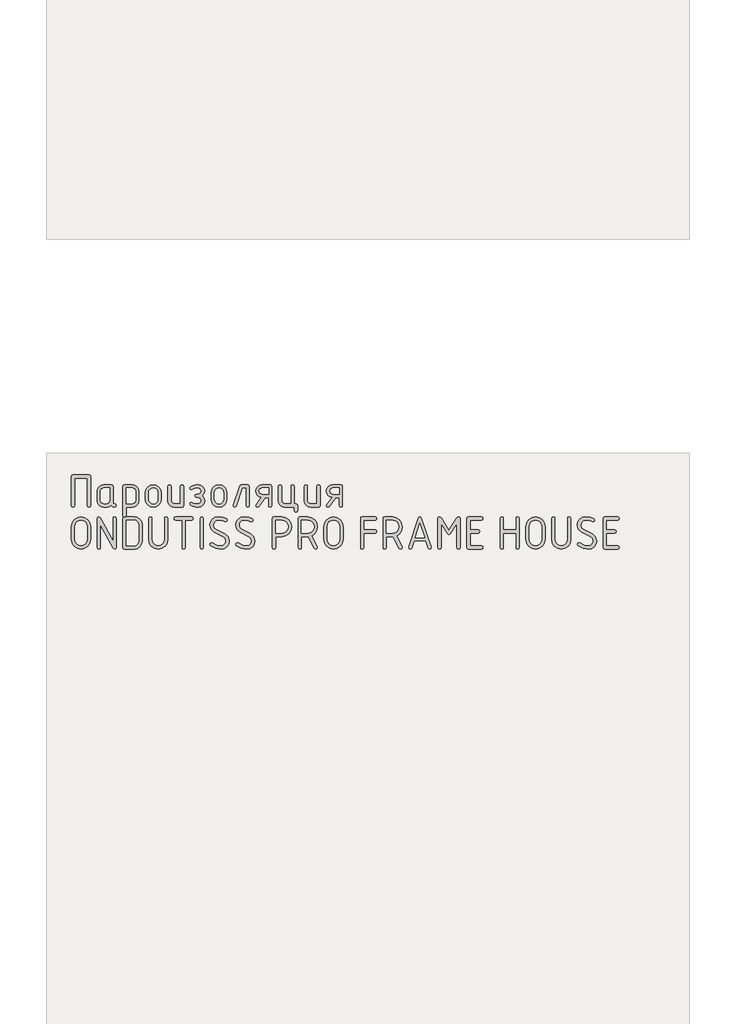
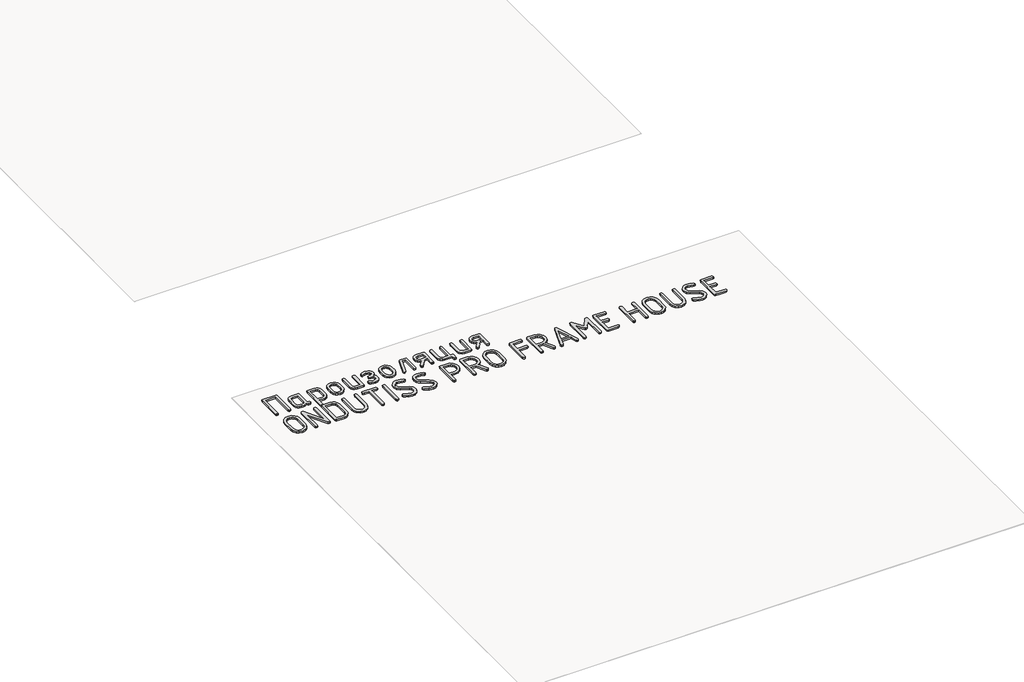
# One storey, part 14 of 42: 1 proxy.
"""IFC4 building model written with IfcOpenShell, lengths in millimetres."""

from ifc_helpers import new_model, si_unit, origin, origin_with_axes, place, context, project, spatial, polyline, outline, extrude, element, save

model = new_model("IFC4")

# Units and contexts
model_context = context("Model", 3, world=origin())
ifc_project = project(units=[si_unit("LENGTHUNIT", "METRE", prefix="MILLI")], contexts=[model_context])

# Site, building, storey
site = spatial("IfcSite", under=ifc_project)
building = spatial("IfcBuilding", under=site)
storey = spatial("IfcBuildingStorey", under=building, Name="Этаж 01", Elevation=0.0)

# Proxy
placement = place(None, origin())
element("IfcBuildingElementProxy", 1, Name="150 мм GOST Common", ObjectType="150 мм GOST Common", at=placement, inside=storey, context=model_context, shape_type="SweptSolid", body=[
    extrude(outline(polyline([(-10713.0545046, -38675.913887), (-10638.5048151, -38675.913887), (-10632.9016029, -38677.8016002), (-10631.0338655, -38683.4647398), (-10631.0338655, -38819.2202837), (-10632.9515424, -38824.8834233), (-10638.7045731, -38826.7711365), (-10644.4576038, -38824.8934112), (-10646.3752807, -38819.2602353), (-10646.3752807, -38691.2553022), (-10705.184039, -38691.2553022), (-10705.184039, -38819.2602353), (-10707.1017159, -38824.8934112), (-10712.8547466, -38826.7711365), (-10718.6077773, -38824.8834233), (-10720.5254542, -38819.2202837), (-10720.5254542, -38683.4647398), (-10718.6577168, -38677.8016002), (-10713.0545046, -38675.913887)])), origin_with_axes(), (0.0, 0.0, 1.0), 10.0),
    extrude(outline(polyline([(-10511.2190109, -38819.3001869), (-10513.0867483, -38824.9033991), (-10518.6899605, -38826.7711365), (-10528.1684781, -38824.7835443), (-10535.7492945, -38818.8207677), (-10544.8682477, -38824.7835443), (-10555.8449504, -38826.7711365), (-10570.7069464, -38826.7711365), (-10582.2030199, -38824.6037621), (-10591.7614407, -38818.1016388), (-10598.2036365, -38808.443339), (-10600.3510351, -38796.8074349), (-10600.3510351, -38751.9018342), (-10598.2036365, -38740.2659301), (-10591.7614407, -38730.6076303), (-10582.2030199, -38724.105507), (-10570.7069464, -38721.9381326), (-10533.6318596, -38721.9381326), (-10528.0586111, -38723.80587), (-10526.2008617, -38729.4090822), (-10526.2008617, -38804.3183361), (-10524.3281303, -38809.9215483), (-10518.7099363, -38811.7892857), (-10513.0917422, -38813.667011), (-10511.2190109, -38819.3001869)]), holes=[polyline([(-10541.5422768, -38737.2795478), (-10570.5071884, -38737.2795478), (-10580.7747501, -38741.6142966), (-10585.0096199, -38752.1015922), (-10585.0096199, -38796.6076769), (-10580.7347985, -38807.0550209), (-10570.5071884, -38811.4297213), (-10556.0447084, -38811.4297213), (-10545.7771467, -38807.0949725), (-10541.5422768, -38796.6076769), (-10541.5422768, -38737.2795478)])]), origin_with_axes(), (0.0, 0.0, 1.0), 10.0),
    extrude(outline(polyline([(-10480.1766161, -38729.4889854), (-10478.3188666, -38723.8258458), (-10472.7456181, -38721.9381326), (-10435.6705313, -38721.9381326), (-10424.1744578, -38724.105507), (-10414.6160371, -38730.6076303), (-10408.1738412, -38740.2659301), (-10406.0264426, -38751.9018342), (-10406.0264426, -38796.8074349), (-10408.1588594, -38808.3684298), (-10414.5561096, -38818.0417114), (-10424.0396212, -38824.5887802), (-10435.4308217, -38826.7711365), (-10464.8352009, -38826.7711365), (-10464.8352009, -38865.1246745), (-10466.7528778, -38870.8777052), (-10472.5059085, -38872.7953821), (-10478.2589392, -38870.9076689), (-10480.1766161, -38865.2445293), (-10480.1766161, -38729.4889854)]), holes=[polyline([(-10464.8352009, -38737.2795478), (-10464.8352009, -38811.4297213), (-10435.8702894, -38811.4297213), (-10425.6027276, -38807.0949725), (-10421.3678578, -38796.6076769), (-10421.3678578, -38752.1015922), (-10425.5428002, -38741.5543692), (-10435.8702894, -38737.2795478), (-10464.8352009, -38737.2795478)])]), origin_with_axes(), (0.0, 0.0, 1.0), 10.0),
    extrude(outline(polyline([(-10375.3436122, -38789.3364853), (-10375.3436122, -38759.3727838), (-10372.6318972, -38744.9802191), (-10364.4967522, -38732.8848716), (-10352.5162656, -38724.6748174), (-10338.2685255, -38721.9381326), (-10323.8709669, -38724.6448537), (-10311.9204439, -38732.7650168), (-10303.87519, -38744.8304006), (-10301.1934388, -38759.3727838), (-10301.1934388, -38789.3364853), (-10303.9051537, -38803.72905), (-10312.0402987, -38815.8243975), (-10324.0207854, -38824.0344517), (-10338.2685255, -38826.7711365), (-10352.5162656, -38824.0344517), (-10364.4967522, -38815.8243975), (-10372.6318972, -38803.72905), (-10375.3436122, -38789.3364853)]), holes=[polyline([(-10316.534854, -38788.8970177), (-10316.534854, -38758.8933645), (-10318.1279241, -38750.2638185), (-10322.9071345, -38742.9926269), (-10329.9336225, -38738.0486162), (-10338.2685255, -38736.4006126), (-10346.6034285, -38738.0486162), (-10353.6299165, -38742.9926269), (-10358.4091269, -38750.2638185), (-10360.002197, -38758.8933645), (-10360.002197, -38788.8970177), (-10358.4241087, -38797.606467), (-10353.6898439, -38804.8776585), (-10346.6783377, -38809.7917056), (-10338.2685255, -38811.4297213), (-10329.9336225, -38809.7817177), (-10322.9071345, -38804.8377069), (-10318.1279241, -38797.5565275), (-10316.534854, -38788.8970177)])]), origin_with_axes(), (0.0, 0.0, 1.0), 10.0),
    extrude(outline(polyline([(-10196.3604349, -38729.4090822), (-10196.3604349, -38819.3001869), (-10198.2181844, -38824.9033991), (-10203.7914329, -38826.7711365), (-10240.8665196, -38826.7711365), (-10252.3625931, -38824.6037621), (-10261.9210139, -38818.1016388), (-10268.3632097, -38808.443339), (-10270.5106084, -38796.8074349), (-10270.5106084, -38729.4090822), (-10268.5929315, -38723.80587), (-10262.8399008, -38721.9381326), (-10257.0868701, -38723.80587), (-10255.1691932, -38729.4090822), (-10255.1691932, -38796.5277737), (-10250.8943717, -38807.0150692), (-10240.6667616, -38811.4297213), (-10211.7018501, -38811.4297213), (-10211.7018501, -38729.4090822), (-10209.7841732, -38723.80587), (-10204.0311425, -38721.9381326), (-10198.2781118, -38723.80587), (-10196.3604349, -38729.4090822)])), origin_with_axes(), (0.0, 0.0, 1.0), 10.0),
    extrude(outline(polyline([(-10114.5395539, -38796.0483545), (-10118.5347141, -38784.7020995), (-10127.4039697, -38780.7468909), (-10137.0722574, -38780.7468909), (-10142.3858205, -38778.5495528), (-10144.543207, -38773.1161349), (-10142.3258931, -38767.6627412), (-10134.9148709, -38765.4054757), (-10132.6376296, -38765.4054757), (-10130.2405335, -38765.4054757), (-10118.5746657, -38761.3503881), (-10114.5395539, -38751.3425118), (-10118.8743027, -38741.3346354), (-10129.5613562, -38737.2795478), (-10137.0722574, -38737.2795478), (-10152.4536242, -38741.0949258), (-10161.3628315, -38744.9103038), (-10165.3579917, -38742.1736191), (-10167.0759106, -38736.9199834), (-10163.9996372, -38731.1769406), (-10154.7708171, -38726.013196), (-10137.0722574, -38721.9381326), (-10129.5613562, -38721.9381326), (-10117.8755126, -38724.0555675), (-10108.0673943, -38730.4078723), (-10101.4154526, -38739.8264625), (-10099.1981387, -38751.1427537), (-10101.8449323, -38764.4366493), (-10109.7853132, -38773.0761833), (-10101.8449323, -38782.2650518), (-10099.1981387, -38796.0883061), (-10101.4154526, -38807.9888895), (-10108.0673943, -38817.881905), (-10117.8755126, -38824.5488286), (-10129.5613562, -38826.7711365), (-10137.0722574, -38826.7711365), (-10154.8906719, -38822.8159279), (-10164.0296009, -38817.7420744), (-10167.0759106, -38811.7892857), (-10165.3579917, -38806.5156742), (-10161.2429767, -38803.7989653), (-10152.1140356, -38807.6143433), (-10137.0722574, -38811.4297213), (-10129.5613562, -38811.4297213), (-10118.9142543, -38806.935166), (-10114.5395539, -38796.0483545)])), origin_with_axes(), (0.0, 0.0, 1.0), 10.0),
    extrude(outline(polyline([(-10068.5153083, -38789.3364853), (-10068.5153083, -38759.3727838), (-10065.8035933, -38744.9802191), (-10057.6684483, -38732.8848716), (-10045.6879616, -38724.6748174), (-10031.4402215, -38721.9381326), (-10017.0426629, -38724.6448537), (-10005.09214, -38732.7650168), (-9997.0468861, -38744.8304006), (-9994.3651348, -38759.3727838), (-9994.3651348, -38789.3364853), (-9997.0768498, -38803.72905), (-10005.2119948, -38815.8243975), (-10017.1924814, -38824.0344517), (-10031.4402215, -38826.7711365), (-10045.6879616, -38824.0344517), (-10057.6684483, -38815.8243975), (-10065.8035933, -38803.72905), (-10068.5153083, -38789.3364853)]), holes=[polyline([(-10009.70655, -38788.8970177), (-10009.70655, -38758.8933645), (-10011.2996201, -38750.2638185), (-10016.0788305, -38742.9926269), (-10023.1053185, -38738.0486162), (-10031.4402215, -38736.4006126), (-10039.7751245, -38738.0486162), (-10046.8016125, -38742.9926269), (-10051.5808229, -38750.2638185), (-10053.1738931, -38758.8933645), (-10053.1738931, -38788.8970177), (-10051.5958048, -38797.606467), (-10046.8615399, -38804.8776585), (-10039.8500338, -38809.7917056), (-10031.4402215, -38811.4297213), (-10023.1053185, -38809.7817177), (-10016.0788305, -38804.8377069), (-10011.2996201, -38797.5565275), (-10009.70655, -38788.8970177)])]), origin_with_axes(), (0.0, 0.0, 1.0), 10.0),
    extrude(outline(polyline([(-9927.3662981, -38721.9381326), (-9897.2028386, -38721.9381326), (-9891.4498079, -38723.80587), (-9889.532131, -38729.4090822), (-9889.532131, -38819.3001869), (-9891.4498079, -38824.9033991), (-9897.2028386, -38826.7711365), (-9902.9558693, -38824.9033991), (-9904.8735462, -38819.3001869), (-9904.8735462, -38737.2795478), (-9922.0127834, -38737.2795478), (-9950.2985177, -38821.697283), (-9957.3699513, -38826.7711365), (-9963.0031272, -38824.8734354), (-9964.8808525, -38819.1803321), (-9964.5212881, -38816.9030908), (-9934.8771993, -38728.0507277), (-9931.9607324, -38723.4662814), (-9927.3662981, -38721.9381326)])), origin_with_axes(), (0.0, 0.0, 1.0), 10.0),
    extrude(outline(polyline([(-9833.3202268, -38781.6258261), (-9843.9024074, -38778.5046072), (-9852.47702, -38771.8576594), (-9858.1551415, -38762.663797), (-9860.0478486, -38751.9018342), (-9857.8704863, -38740.2659301), (-9851.3383994, -38730.6076303), (-9841.6601238, -38724.105507), (-9830.0441955, -38721.9381326), (-9792.3698347, -38721.9381326), (-9786.616804, -38723.80587), (-9784.6991271, -38729.4090822), (-9784.6991271, -38819.3001869), (-9786.616804, -38824.9033991), (-9792.3698347, -38826.7711365), (-9798.1228654, -38824.8934112), (-9800.0405423, -38819.2602353), (-9800.0405423, -38781.7856325), (-9815.2621027, -38781.7856325), (-9846.5042555, -38823.6948631), (-9852.5369474, -38826.7711365), (-9858.1701233, -38824.9033991), (-9860.0478486, -38819.3001869), (-9858.5696393, -38814.7457043), (-9833.3202268, -38781.6258261)]), holes=[polyline([(-9845.0260462, -38752.3013502), (-9840.5914184, -38762.8485732), (-9830.0441955, -38767.283201), (-9800.0405423, -38767.283201), (-9800.0405423, -38737.2795478), (-9830.0441955, -38737.2795478), (-9840.6513458, -38741.6542483), (-9845.0260462, -38752.3013502)])]), origin_with_axes(), (0.0, 0.0, 1.0), 10.0),
    extrude(outline(polyline([(-9672.1954157, -38811.4297213), (-9666.442385, -38813.3473982), (-9664.5247081, -38819.1004289), (-9664.5247081, -38842.1125517), (-9666.442385, -38847.8655824), (-9672.1954157, -38849.7832593), (-9677.9484464, -38847.8655824), (-9679.8661233, -38842.1125517), (-9679.8661233, -38826.7711365), (-9724.372208, -38826.7711365), (-9735.8682815, -38824.5887802), (-9745.4267023, -38818.0417114), (-9751.8688981, -38808.3684298), (-9754.0162967, -38796.8074349), (-9754.0162967, -38729.4090822), (-9752.0986198, -38723.80587), (-9746.3455891, -38721.9381326), (-9740.5925584, -38723.80587), (-9738.6748815, -38729.4090822), (-9738.6748815, -38796.5277737), (-9734.4000601, -38807.0150692), (-9724.17245, -38811.4297213), (-9695.2075385, -38811.4297213), (-9695.2075385, -38729.4090822), (-9693.2898616, -38723.80587), (-9687.5368309, -38721.9381326), (-9681.7838002, -38723.80587), (-9679.8661233, -38729.4090822), (-9679.8661233, -38811.4297213), (-9672.1954157, -38811.4297213)])), origin_with_axes(), (0.0, 0.0, 1.0), 10.0),
    extrude(outline(polyline([(-9559.6917042, -38729.4090822), (-9559.6917042, -38819.3001869), (-9561.5494537, -38824.9033991), (-9567.1227022, -38826.7711365), (-9604.1977889, -38826.7711365), (-9615.6938624, -38824.6037621), (-9625.2522832, -38818.1016388), (-9631.6944791, -38808.443339), (-9633.8418777, -38796.8074349), (-9633.8418777, -38729.4090822), (-9631.9242008, -38723.80587), (-9626.1711701, -38721.9381326), (-9620.4181394, -38723.80587), (-9618.5004625, -38729.4090822), (-9618.5004625, -38796.5277737), (-9614.225641, -38807.0150692), (-9603.9980309, -38811.4297213), (-9575.0331194, -38811.4297213), (-9575.0331194, -38729.4090822), (-9573.1154425, -38723.80587), (-9567.3624118, -38721.9381326), (-9561.6093811, -38723.80587), (-9559.6917042, -38729.4090822)])), origin_with_axes(), (0.0, 0.0, 1.0), 10.0),
    extrude(outline(polyline([(-9503.4798001, -38781.6258261), (-9514.0619807, -38778.5046072), (-9522.6365933, -38771.8576594), (-9528.3147147, -38762.663797), (-9530.2074219, -38751.9018342), (-9528.0300596, -38740.2659301), (-9521.4979726, -38730.6076303), (-9511.819697, -38724.105507), (-9500.2037687, -38721.9381326), (-9462.529408, -38721.9381326), (-9456.7763773, -38723.80587), (-9454.8587004, -38729.4090822), (-9454.8587004, -38819.3001869), (-9456.7763773, -38824.9033991), (-9462.529408, -38826.7711365), (-9468.2824387, -38824.8934112), (-9470.2001156, -38819.2602353), (-9470.2001156, -38781.7856325), (-9485.4216759, -38781.7856325), (-9516.6638288, -38823.6948631), (-9522.6965207, -38826.7711365), (-9528.3296966, -38824.9033991), (-9530.2074219, -38819.3001869), (-9528.7292126, -38814.7457043), (-9503.4798001, -38781.6258261)]), holes=[polyline([(-9515.1856195, -38752.3013502), (-9510.7509917, -38762.8485732), (-9500.2037687, -38767.283201), (-9470.2001156, -38767.283201), (-9470.2001156, -38737.2795478), (-9500.2037687, -38737.2795478), (-9510.8109191, -38741.6542483), (-9515.1856195, -38752.3013502)])]), origin_with_axes(), (0.0, 0.0, 1.0), 10.0),
    extrude(outline(polyline([(-10631.0338655, -38977.5302169), (-10634.3098969, -38994.8991759), (-10644.137991, -39009.5314502), (-10658.6004709, -39019.4793991), (-10675.7796598, -39022.7953821), (-10692.9588487, -39019.4793991), (-10707.4213287, -39009.5314502), (-10717.2494228, -38994.8991759), (-10720.5254542, -38977.5302169), (-10720.5254542, -38917.2032978), (-10717.2494228, -38899.8343388), (-10707.4213287, -38885.2020645), (-10692.9588487, -38875.2541156), (-10675.7796598, -38871.9381326), (-10658.5255617, -38875.2391337), (-10644.0780636, -38885.1421371), (-10634.294915, -38899.7594295), (-10631.0338655, -38917.2032978), (-10631.0338655, -38977.5302169)]), holes=[polyline([(-10646.3752807, -38977.4103621), (-10646.3752807, -38917.3231526), (-10648.5076975, -38905.6772606), (-10654.9049477, -38895.9889971), (-10664.3884593, -38889.4569101), (-10675.7796598, -38887.2795478), (-10687.1708604, -38889.4569101), (-10696.6543719, -38895.9889971), (-10703.0516222, -38905.6772606), (-10705.184039, -38917.3231526), (-10705.184039, -38977.4103621), (-10703.0516222, -38989.0562541), (-10696.6543719, -38998.7445176), (-10687.1708604, -39005.2766046), (-10675.7796598, -39007.4539669), (-10664.3884593, -39005.2766046), (-10654.9049477, -38998.7445176), (-10648.5076975, -38989.0562541), (-10646.3752807, -38977.4103621)])]), origin_with_axes(), (0.0, 0.0, 1.0), 10.0),
    extrude(outline(polyline([(-10526.2008617, -38986.1198114), (-10526.2008617, -38879.4889854), (-10524.2831848, -38873.8258458), (-10518.5301541, -38871.9381326), (-10512.7771234, -38873.8258458), (-10510.8594465, -38879.4889854), (-10510.8594465, -39015.2445293), (-10512.8969782, -39020.9076689), (-10519.0095733, -39022.7953821), (-10526.2008617, -39019.0399315), (-10585.0096199, -38908.4938485), (-10585.0096199, -39015.2445293), (-10586.9272968, -39020.9076689), (-10592.6803275, -39022.7953821), (-10598.4333582, -39020.9076689), (-10600.3510351, -39015.2445293), (-10600.3510351, -38879.4889854), (-10598.353455, -38873.8258458), (-10592.3607147, -38871.9381326), (-10585.0096199, -38876.4127121), (-10526.2008617, -38986.1198114)])), origin_with_axes(), (0.0, 0.0, 1.0), 10.0),
    extrude(outline(polyline([(-10480.1766161, -38879.4889854), (-10478.3088787, -38873.8258458), (-10472.7056665, -38871.9381326), (-10427.9598721, -38871.9381326), (-10413.4874043, -38874.6648295), (-10401.47196, -38882.84492), (-10393.3817605, -38895.0001949), (-10390.6850274, -38909.652445), (-10390.6850274, -38985.0810697), (-10393.4117242, -38999.5835013), (-10401.5918148, -39011.7687399), (-10413.6372228, -39020.0387215), (-10427.9598721, -39022.7953821), (-10472.7056665, -39022.7953821), (-10478.3088787, -39020.9076689), (-10480.1766161, -39015.2445293), (-10480.1766161, -38879.4889854)]), holes=[polyline([(-10464.8352009, -38887.2795478), (-10464.8352009, -39007.4539669), (-10428.079727, -39007.4539669), (-10419.6049934, -39005.8059633), (-10412.4786263, -39000.8619525), (-10407.6394885, -38993.580773), (-10406.0264426, -38984.9212633), (-10406.0264426, -38909.8122514), (-10407.6394885, -38901.1527416), (-10412.4786263, -38893.8715622), (-10419.6049934, -38888.9275514), (-10428.079727, -38887.2795478), (-10464.8352009, -38887.2795478)])]), origin_with_axes(), (0.0, 0.0, 1.0), 10.0),
    extrude(outline(polyline([(-10270.5106084, -38879.4889854), (-10270.5106084, -38977.5302169), (-10273.7866397, -38994.8991759), (-10283.6147338, -39009.5314502), (-10298.0772138, -39019.4793991), (-10315.2564027, -39022.7953821), (-10332.4355916, -39019.4793991), (-10346.8980715, -39009.5314502), (-10356.7261656, -38994.8991759), (-10360.002197, -38977.5302169), (-10360.002197, -38879.4889854), (-10358.0845201, -38873.8258458), (-10352.3314894, -38871.9381326), (-10346.5784587, -38873.8158579), (-10344.6607818, -38879.4490338), (-10344.6607818, -38977.3304589), (-10342.5283651, -38989.0113086), (-10336.1311148, -38998.7245418), (-10326.6476032, -39005.2716106), (-10315.2564027, -39007.4539669), (-10303.8652021, -39005.2716106), (-10294.3816906, -38998.7245418), (-10287.9844403, -38989.0113086), (-10285.8520236, -38977.3304589), (-10285.8520236, -38879.4490338), (-10283.9343467, -38873.8158579), (-10278.181316, -38871.9381326), (-10272.4282853, -38873.8258458), (-10270.5106084, -38879.4889854)])), origin_with_axes(), (0.0, 0.0, 1.0), 10.0),
    extrude(outline(polyline([(-10241.5456969, -38879.6088402), (-10239.6679716, -38873.8558095), (-10234.0347957, -38871.9381326), (-10158.6860741, -38871.9381326), (-10153.082862, -38873.8558095), (-10151.2151246, -38879.6088402), (-10153.082862, -38885.3618709), (-10158.6860741, -38887.2795478), (-10188.6897273, -38887.2795478), (-10188.6897273, -39015.2844809), (-10190.6074042, -39020.9176568), (-10196.3604349, -39022.7953821), (-10202.1134656, -39020.9176568), (-10204.0311425, -39015.2844809), (-10204.0311425, -38887.2795478), (-10234.0347957, -38887.2795478), (-10239.6679716, -38885.3618709), (-10241.5456969, -38879.6088402)])), origin_with_axes(), (0.0, 0.0, 1.0), 10.0),
    extrude(outline(polyline([(-10111.9826513, -39022.7953821), (-10117.735682, -39020.9076689), (-10119.6533589, -39015.2445293), (-10119.6533589, -38879.4889854), (-10117.735682, -38873.8258458), (-10111.9826513, -38871.9381326), (-10106.2296206, -38873.8258458), (-10104.3119437, -38879.4889854), (-10104.3119437, -39015.2445293), (-10106.2296206, -39020.9076689), (-10111.9826513, -39022.7953821)])), origin_with_axes(), (0.0, 0.0, 1.0), 10.0),
    extrude(outline(polyline([(-9984.1375247, -38985.1609729), (-9986.8792034, -38999.5535376), (-9995.1042394, -39011.7287883), (-10007.1646293, -39020.0287336), (-10021.4123694, -39022.7953821), (-10047.4308503, -39018.6104518), (-10070.353082, -39006.0556608), (-10073.6291133, -38999.9430657), (-10071.4317752, -38994.6494784), (-10066.1981153, -38992.4321645), (-10061.9632455, -38993.790519), (-10041.5080253, -39004.2578387), (-10021.7319822, -39007.4539669), (-10013.1823394, -39005.8009693), (-10005.991051, -39000.8419767), (-10001.1069677, -38993.5458154), (-9999.4789399, -38984.8813117), (-10002.5652011, -38972.9158069), (-10011.8239849, -38964.665801), (-10053.5334575, -38943.0120327), (-10068.6051994, -38929.3985243), (-10073.6291133, -38909.5725418), (-10070.9024165, -38895.1799771), (-10062.722326, -38883.0047264), (-10050.7268574, -38874.7047811), (-10036.5540266, -38871.9381326), (-10013.3721095, -38874.0256038), (-9996.4026665, -38880.2880175), (-9991.9680387, -38887.2795478), (-9994.1853526, -38892.5731351), (-9999.4789399, -38894.790449), (-10002.5951648, -38893.991417), (-10019.4747167, -38888.9575151), (-10036.2344138, -38887.2795478), (-10044.7091474, -38888.9325454), (-10051.8355144, -38893.891538), (-10056.6746522, -38901.1876993), (-10058.2876981, -38909.852203), (-10055.2513764, -38921.7877441), (-10046.1424111, -38929.9478588), (-10004.4728901, -38951.6016272), (-9989.221366, -38965.3050267), (-9984.1375247, -38985.1609729)])), origin_with_axes(), (0.0, 0.0, 1.0), 10.0),
    extrude(outline(polyline([(-9863.9631056, -38985.1609729), (-9866.7047843, -38999.5535376), (-9874.9298204, -39011.7287883), (-9886.9902103, -39020.0287336), (-9901.2379504, -39022.7953821), (-9927.2564312, -39018.6104518), (-9950.1786629, -39006.0556608), (-9953.4546943, -38999.9430657), (-9951.2573562, -38994.6494784), (-9946.0236963, -38992.4321645), (-9941.7888265, -38993.790519), (-9921.3336062, -39004.2578387), (-9901.5575632, -39007.4539669), (-9893.0079203, -39005.8009693), (-9885.816632, -39000.8419767), (-9880.9325486, -38993.5458154), (-9879.3045208, -38984.8813117), (-9882.3907821, -38972.9158069), (-9891.6495659, -38964.665801), (-9933.3590384, -38943.0120327), (-9948.4307803, -38929.3985243), (-9953.4546943, -38909.5725418), (-9950.7279974, -38895.1799771), (-9942.5479069, -38883.0047264), (-9930.5524384, -38874.7047811), (-9916.3796075, -38871.9381326), (-9893.1976904, -38874.0256038), (-9876.2282475, -38880.2880175), (-9871.7936196, -38887.2795478), (-9874.0109335, -38892.5731351), (-9879.3045208, -38894.790449), (-9882.4207458, -38893.991417), (-9899.3002977, -38888.9575151), (-9916.0599947, -38887.2795478), (-9924.5347283, -38888.9325454), (-9931.6610953, -38893.891538), (-9936.5002331, -38901.1876993), (-9938.1132791, -38909.852203), (-9935.0769573, -38921.7877441), (-9925.967992, -38929.9478588), (-9884.2984711, -38951.6016272), (-9869.046947, -38965.3050267), (-9863.9631056, -38985.1609729)])), origin_with_axes(), (0.0, 0.0, 1.0), 10.0),
    extrude(outline(polyline([(-9774.671275, -38871.9381326), (-9737.3964302, -38871.9381326), (-9720.1423321, -38875.2940672), (-9705.694834, -38885.3618709), (-9695.9116854, -38900.2238669), (-9692.6506359, -38917.9623782), (-9695.7418911, -38936.4999216), (-9705.0156568, -38951.2021111), (-9719.2334332, -38960.7904956), (-9737.1567206, -38963.9866238), (-9766.8008094, -38963.9866238), (-9766.8008094, -39015.4442873), (-9768.7184863, -39020.9576084), (-9774.471517, -39022.7953821), (-9780.2245477, -39020.9076689), (-9782.1422246, -39015.2445293), (-9782.1422246, -38879.4889854), (-9780.2744872, -38873.8258458), (-9774.671275, -38871.9381326)]), holes=[polyline([(-9766.8008094, -38887.2795478), (-9766.8008094, -38948.6452086), (-9737.3964302, -38948.6452086), (-9726.0052297, -38946.4229007), (-9716.5217182, -38939.7559772), (-9710.1244679, -38929.8629617), (-9707.9920511, -38917.9623782), (-9710.1244679, -38906.0617947), (-9716.5217182, -38896.1687793), (-9726.0052297, -38889.5018557), (-9737.3964302, -38887.2795478), (-9766.8008094, -38887.2795478)])]), origin_with_axes(), (0.0, 0.0, 1.0), 10.0),
    extrude(outline(polyline([(-9598.6445162, -38959.2723348), (-9572.4762169, -39011.8086915), (-9572.4762169, -39015.2445293), (-9574.9132646, -39020.5181407), (-9580.5064889, -39022.7953821), (-9587.8176321, -39018.6803671), (-9614.9048183, -38963.866769), (-9617.541624, -38963.9866238), (-9646.6263903, -38963.9866238), (-9646.6263903, -39015.4442873), (-9648.5440672, -39020.9576084), (-9654.2970979, -39022.7953821), (-9660.0501286, -39020.9076689), (-9661.9678055, -39015.2445293), (-9661.9678055, -38879.4889854), (-9660.1000681, -38873.8258458), (-9654.4968559, -38871.9381326), (-9617.2220112, -38871.9381326), (-9599.9679131, -38875.2391337), (-9585.520415, -38885.1421371), (-9575.7372664, -38899.7594295), (-9572.4762169, -38917.2032978), (-9574.1117356, -38931.533438), (-9579.0182917, -38943.3216576), (-9587.1958853, -38952.5679565), (-9598.6445162, -38959.2723348)]), holes=[polyline([(-9646.6263903, -38887.2795478), (-9646.6263903, -38948.6452086), (-9617.2220112, -38948.6452086), (-9605.8308107, -38946.4229007), (-9596.3472991, -38939.7559772), (-9589.9500488, -38929.8629617), (-9587.8176321, -38917.9623782), (-9589.9500488, -38906.0617947), (-9596.3472991, -38896.1687793), (-9605.8308107, -38889.5018557), (-9617.2220112, -38887.2795478), (-9646.6263903, -38887.2795478)])]), origin_with_axes(), (0.0, 0.0, 1.0), 10.0),
    extrude(outline(polyline([(-9452.3017978, -38977.5302169), (-9455.5778292, -38994.8991759), (-9465.4059233, -39009.5314502), (-9479.8684033, -39019.4793991), (-9497.0475922, -39022.7953821), (-9514.226781, -39019.4793991), (-9528.689261, -39009.5314502), (-9538.5173551, -38994.8991759), (-9541.7933865, -38977.5302169), (-9541.7933865, -38917.2032978), (-9538.5173551, -38899.8343388), (-9528.689261, -38885.2020645), (-9514.226781, -38875.2541156), (-9497.0475922, -38871.9381326), (-9479.793494, -38875.2391337), (-9465.3459959, -38885.1421371), (-9455.5628473, -38899.7594295), (-9452.3017978, -38917.2032978), (-9452.3017978, -38977.5302169)]), holes=[polyline([(-9467.643213, -38977.4103621), (-9467.643213, -38917.3231526), (-9469.7756298, -38905.6772606), (-9476.1728801, -38895.9889971), (-9485.6563916, -38889.4569101), (-9497.0475922, -38887.2795478), (-9508.4387927, -38889.4569101), (-9517.9223042, -38895.9889971), (-9524.3195545, -38905.6772606), (-9526.4519713, -38917.3231526), (-9526.4519713, -38977.4103621), (-9524.3195545, -38989.0562541), (-9517.9223042, -38998.7445176), (-9508.4387927, -39005.2766046), (-9497.0475922, -39007.4539669), (-9485.6563916, -39005.2766046), (-9476.1728801, -38998.7445176), (-9469.7756298, -38989.0562541), (-9467.643213, -38977.4103621)])]), origin_with_axes(), (0.0, 0.0, 1.0), 10.0),
    extrude(outline(polyline([(-9370.4809168, -39015.2445293), (-9370.4809168, -38879.4889854), (-9368.5632399, -38873.8258458), (-9362.8102092, -38871.9381326), (-9302.6430964, -38871.9381326), (-9297.0099206, -38873.8558095), (-9295.1321953, -38879.6088402), (-9297.0099206, -38885.3618709), (-9302.6430964, -38887.2795478), (-9355.1395016, -38887.2795478), (-9355.1395016, -38933.3037934), (-9302.6430964, -38933.3037934), (-9297.0099206, -38935.2214703), (-9295.1321953, -38940.974501), (-9297.0099206, -38946.7275317), (-9302.6430964, -38948.6452086), (-9355.1395016, -38948.6452086), (-9355.1395016, -39015.3643841), (-9357.0571785, -39020.9376326), (-9362.8102092, -39022.7953821), (-9368.5632399, -39020.9076689), (-9370.4809168, -39015.2445293)])), origin_with_axes(), (0.0, 0.0, 1.0), 10.0),
    extrude(outline(polyline([(-9202.3246236, -38959.2723348), (-9176.1563243, -39011.8086915), (-9176.1563243, -39015.2445293), (-9178.593372, -39020.5181407), (-9184.1865963, -39022.7953821), (-9191.4977395, -39018.6803671), (-9218.5849257, -38963.866769), (-9221.2217314, -38963.9866238), (-9250.3064977, -38963.9866238), (-9250.3064977, -39015.4442873), (-9252.2241746, -39020.9576084), (-9257.9772053, -39022.7953821), (-9263.730236, -39020.9076689), (-9265.6479129, -39015.2445293), (-9265.6479129, -38879.4889854), (-9263.7801755, -38873.8258458), (-9258.1769633, -38871.9381326), (-9220.9021186, -38871.9381326), (-9203.6480204, -38875.2391337), (-9189.2005223, -38885.1421371), (-9179.4173738, -38899.7594295), (-9176.1563243, -38917.2032978), (-9177.791843, -38931.533438), (-9182.6983991, -38943.3216576), (-9190.8759927, -38952.5679565), (-9202.3246236, -38959.2723348)]), holes=[polyline([(-9250.3064977, -38887.2795478), (-9250.3064977, -38948.6452086), (-9220.9021186, -38948.6452086), (-9209.5109181, -38946.4229007), (-9200.0274065, -38939.7559772), (-9193.6301562, -38929.8629617), (-9191.4977395, -38917.9623782), (-9193.6301562, -38906.0617947), (-9200.0274065, -38896.1687793), (-9209.5109181, -38889.5018557), (-9220.9021186, -38887.2795478), (-9250.3064977, -38887.2795478)])]), origin_with_axes(), (0.0, 0.0, 1.0), 10.0),
    extrude(outline(polyline([(-9040.8002964, -39015.2445293), (-9042.6780217, -39020.9076689), (-9048.3111976, -39022.7953821), (-9052.8357166, -39021.4869671), (-9055.4625344, -39017.5617222), (-9066.249467, -38984.4418441), (-9120.3439362, -38984.4418441), (-9131.1708203, -39017.5617222), (-9133.7976382, -39021.4869671), (-9138.3221571, -39022.7953821), (-9143.955333, -39020.9076689), (-9145.8330583, -39015.2445293), (-9145.4734939, -39012.8474332), (-9100.8076028, -38878.0107761), (-9097.9111116, -38873.4562935), (-9093.2967016, -38871.9381326), (-9088.7422189, -38873.3963661), (-9085.9456068, -38877.7710665), (-9041.1598609, -39012.8474332), (-9040.8002964, -39015.2445293)]), holes=[polyline([(-9093.2967016, -38902.9405758), (-9115.3499859, -38969.1004289), (-9071.2833688, -38969.1004289), (-9093.2967016, -38902.9405758)])]), origin_with_axes(), (0.0, 0.0, 1.0), 10.0),
    extrude(outline(polyline([(-8913.434589, -38871.9381326), (-8907.2021391, -38873.8258458), (-8905.1246558, -38879.4889854), (-8905.1246558, -39015.2445293), (-8907.0423327, -39020.9076689), (-8912.7953634, -39022.7953821), (-8918.5483941, -39020.9076689), (-8920.466071, -39015.2445293), (-8920.466071, -38904.2989303), (-8950.6694821, -38950.1234179), (-8957.5411577, -38954.6379489), (-8964.4927365, -38950.1234179), (-8994.6162444, -38904.2989303), (-8994.6162444, -39015.2445293), (-8996.5339213, -39020.9076689), (-9002.286952, -39022.7953821), (-9008.0399827, -39020.9076689), (-9009.9576596, -39015.2445293), (-9009.9576596, -38879.4889854), (-9007.9201279, -38873.8258458), (-9001.8075328, -38871.9381326), (-8994.6162444, -38875.6935832), (-8957.6610125, -38933.6633578), (-8920.466071, -38875.2541156), (-8913.434589, -38871.9381326)])), origin_with_axes(), (0.0, 0.0, 1.0), 10.0),
    extrude(outline(polyline([(-8874.4418254, -39015.2445293), (-8874.4418254, -38879.4889854), (-8872.5241485, -38873.8258458), (-8866.7711178, -38871.9381326), (-8806.6040051, -38871.9381326), (-8800.9708292, -38873.8558095), (-8799.0931039, -38879.6088402), (-8800.9708292, -38885.3618709), (-8806.6040051, -38887.2795478), (-8859.1004102, -38887.2795478), (-8859.1004102, -38933.3037934), (-8821.5858558, -38933.3037934), (-8815.9826436, -38935.2214703), (-8814.1149062, -38940.974501), (-8815.9826436, -38946.7275317), (-8821.5858558, -38948.6452086), (-8859.1004102, -38948.6452086), (-8859.1004102, -39007.4539669), (-8806.6040051, -39007.4539669), (-8800.9708292, -39009.3716438), (-8799.0931039, -39015.1246745), (-8800.9708292, -39020.8777052), (-8806.6040051, -39022.7953821), (-8866.7711178, -39022.7953821), (-8872.5241485, -39020.9076689), (-8874.4418254, -39015.2445293)])), origin_with_axes(), (0.0, 0.0, 1.0), 10.0),
    extrude(outline(polyline([(-8718.4707709, -39015.2445293), (-8718.4707709, -38879.4889854), (-8716.553094, -38873.8258458), (-8710.8000633, -38871.9381326), (-8705.0470326, -38873.8558095), (-8703.1293557, -38879.6088402), (-8703.1293557, -38933.3037934), (-8644.3205974, -38933.3037934), (-8644.3205974, -38879.6088402), (-8642.4029205, -38873.8558095), (-8636.6498898, -38871.9381326), (-8630.8968591, -38873.8258458), (-8628.9791822, -38879.4889854), (-8628.9791822, -39015.2445293), (-8630.8968591, -39020.9076689), (-8636.6498898, -39022.7953821), (-8642.4029205, -39020.9376326), (-8644.3205974, -39015.3643841), (-8644.3205974, -38948.6452086), (-8703.1293557, -38948.6452086), (-8703.1293557, -39015.3643841), (-8705.0470326, -39020.9376326), (-8710.8000633, -39022.7953821), (-8716.553094, -39020.9076689), (-8718.4707709, -39015.2445293)])), origin_with_axes(), (0.0, 0.0, 1.0), 10.0),
    extrude(outline(polyline([(-8508.8047632, -38977.5302169), (-8512.0807945, -38994.8991759), (-8521.9088887, -39009.5314502), (-8536.3713686, -39019.4793991), (-8553.5505575, -39022.7953821), (-8570.7297464, -39019.4793991), (-8585.1922263, -39009.5314502), (-8595.0203205, -38994.8991759), (-8598.2963518, -38977.5302169), (-8598.2963518, -38917.2032978), (-8595.0203205, -38899.8343388), (-8585.1922263, -38885.2020645), (-8570.7297464, -38875.2541156), (-8553.5505575, -38871.9381326), (-8536.2964594, -38875.2391337), (-8521.8489613, -38885.1421371), (-8512.0658127, -38899.7594295), (-8508.8047632, -38917.2032978), (-8508.8047632, -38977.5302169)]), holes=[polyline([(-8524.1461784, -38977.4103621), (-8524.1461784, -38917.3231526), (-8526.2785951, -38905.6772606), (-8532.6758454, -38895.9889971), (-8542.159357, -38889.4569101), (-8553.5505575, -38887.2795478), (-8564.941758, -38889.4569101), (-8574.4252696, -38895.9889971), (-8580.8225199, -38905.6772606), (-8582.9549366, -38917.3231526), (-8582.9549366, -38977.4103621), (-8580.8225199, -38989.0562541), (-8574.4252696, -38998.7445176), (-8564.941758, -39005.2766046), (-8553.5505575, -39007.4539669), (-8542.159357, -39005.2766046), (-8532.6758454, -38998.7445176), (-8526.2785951, -38989.0562541), (-8524.1461784, -38977.4103621)])]), origin_with_axes(), (0.0, 0.0, 1.0), 10.0),
    extrude(outline(polyline([(-8388.6303441, -38879.4889854), (-8388.6303441, -38977.5302169), (-8391.9063755, -38994.8991759), (-8401.7344696, -39009.5314502), (-8416.1969496, -39019.4793991), (-8433.3761385, -39022.7953821), (-8450.5553273, -39019.4793991), (-8465.0178073, -39009.5314502), (-8474.8459014, -38994.8991759), (-8478.1219328, -38977.5302169), (-8478.1219328, -38879.4889854), (-8476.2042559, -38873.8258458), (-8470.4512252, -38871.9381326), (-8464.6981945, -38873.8158579), (-8462.7805176, -38879.4490338), (-8462.7805176, -38977.3304589), (-8460.6481008, -38989.0113086), (-8454.2508505, -38998.7245418), (-8444.767339, -39005.2716106), (-8433.3761385, -39007.4539669), (-8421.9849379, -39005.2716106), (-8412.5014264, -38998.7245418), (-8406.1041761, -38989.0113086), (-8403.9717593, -38977.3304589), (-8403.9717593, -38879.4490338), (-8402.0540824, -38873.8158579), (-8396.3010517, -38871.9381326), (-8390.548021, -38873.8258458), (-8388.6303441, -38879.4889854)])), origin_with_axes(), (0.0, 0.0, 1.0), 10.0),
    extrude(outline(polyline([(-8268.4559251, -38985.1609729), (-8271.1976038, -38999.5535376), (-8279.4226399, -39011.7287883), (-8291.4830297, -39020.0287336), (-8305.7307698, -39022.7953821), (-8331.7492507, -39018.6104518), (-8354.6714824, -39006.0556608), (-8357.9475137, -38999.9430657), (-8355.7501756, -38994.6494784), (-8350.5165157, -38992.4321645), (-8346.2816459, -38993.790519), (-8325.8264257, -39004.2578387), (-8306.0503826, -39007.4539669), (-8297.5007398, -39005.8009693), (-8290.3094514, -39000.8419767), (-8285.4253681, -38993.5458154), (-8283.7973403, -38984.8813117), (-8286.8836015, -38972.9158069), (-8296.1423853, -38964.665801), (-8337.8518579, -38943.0120327), (-8352.9235998, -38929.3985243), (-8357.9475137, -38909.5725418), (-8355.2208169, -38895.1799771), (-8347.0407264, -38883.0047264), (-8335.0452578, -38874.7047811), (-8320.872427, -38871.9381326), (-8297.6905099, -38874.0256038), (-8280.7210669, -38880.2880175), (-8276.2864391, -38887.2795478), (-8278.503753, -38892.5731351), (-8283.7973403, -38894.790449), (-8286.9135652, -38893.991417), (-8303.7931171, -38888.9575151), (-8320.5528142, -38887.2795478), (-8329.0275478, -38888.9325454), (-8336.1539148, -38893.891538), (-8340.9930526, -38901.1876993), (-8342.6060985, -38909.852203), (-8339.5697768, -38921.7877441), (-8330.4608115, -38929.9478588), (-8288.7912905, -38951.6016272), (-8273.5397664, -38965.3050267), (-8268.4559251, -38985.1609729)])), origin_with_axes(), (0.0, 0.0, 1.0), 10.0),
    extrude(outline(polyline([(-8237.7730947, -39015.2445293), (-8237.7730947, -38879.4889854), (-8235.8554178, -38873.8258458), (-8230.1023871, -38871.9381326), (-8169.9352744, -38871.9381326), (-8164.3020985, -38873.8558095), (-8162.4243732, -38879.6088402), (-8164.3020985, -38885.3618709), (-8169.9352744, -38887.2795478), (-8222.4316795, -38887.2795478), (-8222.4316795, -38933.3037934), (-8184.9171251, -38933.3037934), (-8179.3139129, -38935.2214703), (-8177.4461756, -38940.974501), (-8179.3139129, -38946.7275317), (-8184.9171251, -38948.6452086), (-8222.4316795, -38948.6452086), (-8222.4316795, -39007.4539669), (-8169.9352744, -39007.4539669), (-8164.3020985, -39009.3716438), (-8162.4243732, -39015.1246745), (-8164.3020985, -39020.8777052), (-8169.9352744, -39022.7953821), (-8230.1023871, -39022.7953821), (-8235.8554178, -39020.9076689), (-8237.7730947, -39015.2445293)])), origin_with_axes(), (0.0, 0.0, 1.0), 10.0),
])

save(model, "model.ifc")
